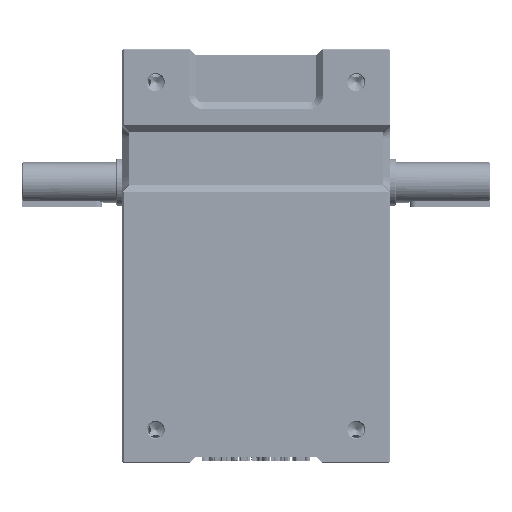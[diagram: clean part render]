
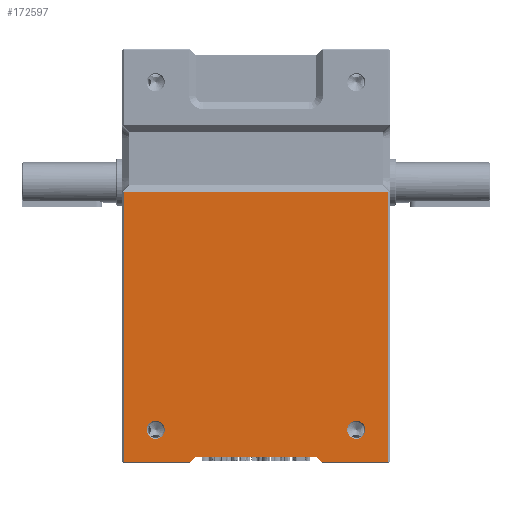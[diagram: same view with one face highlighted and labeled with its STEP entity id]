
A CAD part, front view. The second image highlights one B-rep face of the part: STEP entity #172597.
In plain terms, the highlighted planar face has unit normal (0, -1, 0).
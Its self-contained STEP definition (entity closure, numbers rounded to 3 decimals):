
#916 = VERTEX_POINT ( 'NONE', #53245 ) ;
#3162 = LINE ( 'NONE', #58182, #83329 ) ;
#4793 = CIRCLE ( 'NONE', #22632, 6.75 ) ;
#7851 = CARTESIAN_POINT ( 'NONE',  ( -99., -110., 0. ) ) ;
#10873 = ORIENTED_EDGE ( 'NONE', *, *, #127092, .T. ) ;
#11194 = CARTESIAN_POINT ( 'NONE',  ( -75., -110., -136.75 ) ) ;
#11279 = DIRECTION ( 'NONE',  ( 0., -1., 0. ) ) ;
#11367 = VERTEX_POINT ( 'NONE', #161036 ) ;
#12093 = VERTEX_POINT ( 'NONE', #186749 ) ;
#14230 = CARTESIAN_POINT ( 'NONE',  ( -99., -110., -154. ) ) ;
#14660 = AXIS2_PLACEMENT_3D ( 'NONE', #101179, #41223, #146581 ) ;
#16270 = EDGE_CURVE ( 'NONE', #92589, #146339, #176321, .T. ) ;
#16572 = LINE ( 'NONE', #149292, #47176 ) ;
#21190 = EDGE_CURVE ( 'NONE', #121887, #57894, #37155, .T. ) ;
#22632 = AXIS2_PLACEMENT_3D ( 'NONE', #171561, #81510, #186697 ) ;
#22735 = VERTEX_POINT ( 'NONE', #11194 ) ;
#26059 = PLANE ( 'NONE',  #14660 ) ;
#26813 = CARTESIAN_POINT ( 'NONE',  ( 0., -110., -154. ) ) ;
#32360 = VECTOR ( 'NONE', #191998, 1000. ) ;
#32966 = EDGE_CURVE ( 'NONE', #124194, #139317, #3162, .T. ) ;
#37155 = LINE ( 'NONE', #26813, #32360 ) ;
#38739 = VECTOR ( 'NONE', #52222, 1000. ) ;
#39519 = DIRECTION ( 'NONE',  ( 0., -1., 0. ) ) ;
#39857 = ORIENTED_EDGE ( 'NONE', *, *, #187918, .F. ) ;
#41223 = DIRECTION ( 'NONE',  ( 0., 1., 0. ) ) ;
#42697 = ORIENTED_EDGE ( 'NONE', *, *, #141571, .F. ) ;
#44154 = CARTESIAN_POINT ( 'NONE',  ( 74.998, -110., -123.25 ) ) ;
#46742 = CARTESIAN_POINT ( 'NONE',  ( -74.995, -110., -123.25 ) ) ;
#47176 = VECTOR ( 'NONE', #162458, 1000. ) ;
#48895 = CARTESIAN_POINT ( 'NONE',  ( -75., -110., -130. ) ) ;
#50256 = EDGE_CURVE ( 'NONE', #104775, #115075, #140556, .T. ) ;
#52222 = DIRECTION ( 'NONE',  ( -0.707, 0., -0.707 ) ) ;
#53245 = CARTESIAN_POINT ( 'NONE',  ( -99., -110., 48. ) ) ;
#57894 = VERTEX_POINT ( 'NONE', #14230 ) ;
#58182 = CARTESIAN_POINT ( 'NONE',  ( 49., -110., -154. ) ) ;
#62556 = CARTESIAN_POINT ( 'NONE',  ( -75., -110., -123.25 ) ) ;
#63589 = CARTESIAN_POINT ( 'NONE',  ( 99., -110., -154. ) ) ;
#64042 = DIRECTION ( 'NONE',  ( 1., 0., 0. ) ) ;
#66485 = CARTESIAN_POINT ( 'NONE',  ( 75., -110., -136.75 ) ) ;
#67749 = DIRECTION ( 'NONE',  ( 0., 0., 1. ) ) ;
#69455 = CIRCLE ( 'NONE', #103969, 6.75 ) ;
#72751 = FACE_BOUND ( 'NONE', #194565, .T. ) ;
#73369 = DIRECTION ( 'NONE',  ( -0.707, 0., 0.707 ) ) ;
#76488 = VECTOR ( 'NONE', #67749, 1000. ) ;
#78724 = EDGE_LOOP ( 'NONE', ( #155376, #84054, #128762, #162234, #42697, #158193, #86223, #39857 ) ) ;
#78871 = ORIENTED_EDGE ( 'NONE', *, *, #131225, .F. ) ;
#80768 = CARTESIAN_POINT ( 'NONE',  ( 0., -110., -154. ) ) ;
#81510 = DIRECTION ( 'NONE',  ( 0., -1., 0. ) ) ;
#83329 = VECTOR ( 'NONE', #73369, 1000. ) ;
#84054 = ORIENTED_EDGE ( 'NONE', *, *, #188686, .F. ) ;
#85922 = DIRECTION ( 'NONE',  ( 0., -1., 0. ) ) ;
#86223 = ORIENTED_EDGE ( 'NONE', *, *, #186684, .F. ) ;
#91827 = EDGE_CURVE ( 'NONE', #183646, #22735, #4793, .T. ) ;
#92589 = VERTEX_POINT ( 'NONE', #66485 ) ;
#92928 = CARTESIAN_POINT ( 'NONE',  ( -74.995, -110., -123.25 ) ) ;
#93573 = ORIENTED_EDGE ( 'NONE', *, *, #107201, .F. ) ;
#101179 = CARTESIAN_POINT ( 'NONE',  ( 0., -110., 0. ) ) ;
#101474 = CARTESIAN_POINT ( 'NONE',  ( 75., -110., -130. ) ) ;
#102631 = CARTESIAN_POINT ( 'NONE',  ( 99., -110., 0. ) ) ;
#102980 = ORIENTED_EDGE ( 'NONE', *, *, #174168, .F. ) ;
#103969 = AXIS2_PLACEMENT_3D ( 'NONE', #175966, #85922, #191104 ) ;
#104325 = CIRCLE ( 'NONE', #116495, 6.75 ) ;
#104775 = VERTEX_POINT ( 'NONE', #187102 ) ;
#107201 = EDGE_CURVE ( 'NONE', #146339, #92589, #69455, .T. ) ;
#112763 = FACE_BOUND ( 'NONE', #187415, .T. ) ;
#115075 = VERTEX_POINT ( 'NONE', #63589 ) ;
#116495 = AXIS2_PLACEMENT_3D ( 'NONE', #48895, #154234, #64042 ) ;
#116592 = DIRECTION ( 'NONE',  ( 0., 0., 1. ) ) ;
#121276 = LINE ( 'NONE', #7851, #76488 ) ;
#121887 = VERTEX_POINT ( 'NONE', #177071 ) ;
#124194 = VERTEX_POINT ( 'NONE', #184961 ) ;
#127092 = EDGE_CURVE ( 'NONE', #183646, #134636, #148817, .T. ) ;
#128762 = ORIENTED_EDGE ( 'NONE', *, *, #164342, .F. ) ;
#129744 = CARTESIAN_POINT ( 'NONE',  ( -75., -110., -130. ) ) ;
#131225 = EDGE_CURVE ( 'NONE', #11367, #134636, #104325, .T. ) ;
#132175 = CARTESIAN_POINT ( 'NONE',  ( -75., -110., -123.25 ) ) ;
#133727 = VECTOR ( 'NONE', #155739, 1000. ) ;
#134636 = VERTEX_POINT ( 'NONE', #46742 ) ;
#138434 = LINE ( 'NONE', #80768, #133727 ) ;
#139317 = VERTEX_POINT ( 'NONE', #169682 ) ;
#140556 = LINE ( 'NONE', #102631, #180472 ) ;
#141344 = AXIS2_PLACEMENT_3D ( 'NONE', #101474, #11279, #116592 ) ;
#141571 = EDGE_CURVE ( 'NONE', #115075, #124194, #138434, .T. ) ;
#142505 = CARTESIAN_POINT ( 'NONE',  ( -45., -110., -150. ) ) ;
#144882 = DIRECTION ( 'NONE',  ( 1., 0., 0. ) ) ;
#144953 = LINE ( 'NONE', #192531, #180127 ) ;
#146045 = ORIENTED_EDGE ( 'NONE', *, *, #91827, .F. ) ;
#146339 = VERTEX_POINT ( 'NONE', #44154 ) ;
#146581 = DIRECTION ( 'NONE',  ( 0., 0., 1. ) ) ;
#147850 = DIRECTION ( 'NONE',  ( 1., 0., 0. ) ) ;
#148095 = FACE_OUTER_BOUND ( 'NONE', #78724, .T. ) ;
#148817 = B_SPLINE_CURVE_WITH_KNOTS ( 'NONE', 3,
 ( #62556, #152769, #182974, #92928 ),
 .UNSPECIFIED., .F., .F.,
 ( 4, 4 ),
 ( 0., 0. ),
 .UNSPECIFIED. ) ;
#149292 = CARTESIAN_POINT ( 'NONE',  ( 0., -110., -150. ) ) ;
#152769 = CARTESIAN_POINT ( 'NONE',  ( -74.998, -110., -123.25 ) ) ;
#153413 = ORIENTED_EDGE ( 'NONE', *, *, #16270, .F. ) ;
#154234 = DIRECTION ( 'NONE',  ( 0., -1., 0. ) ) ;
#155376 = ORIENTED_EDGE ( 'NONE', *, *, #21190, .F. ) ;
#155739 = DIRECTION ( 'NONE',  ( -1., 0., 0. ) ) ;
#157094 = AXIS2_PLACEMENT_3D ( 'NONE', #129744, #39519, #144882 ) ;
#158193 = ORIENTED_EDGE ( 'NONE', *, *, #50256, .F. ) ;
#158855 = LINE ( 'NONE', #142505, #38739 ) ;
#161036 = CARTESIAN_POINT ( 'NONE',  ( -68.25, -110., -130. ) ) ;
#162234 = ORIENTED_EDGE ( 'NONE', *, *, #32966, .F. ) ;
#162458 = DIRECTION ( 'NONE',  ( -1., 0., 0. ) ) ;
#164342 = EDGE_CURVE ( 'NONE', #139317, #12093, #16572, .T. ) ;
#169682 = CARTESIAN_POINT ( 'NONE',  ( 45., -110., -150. ) ) ;
#171561 = CARTESIAN_POINT ( 'NONE',  ( -75., -110., -130. ) ) ;
#172597 = ADVANCED_FACE ( 'NONE', ( #112763, #72751, #148095 ), #26059, .F. ) ;
#174168 = EDGE_CURVE ( 'NONE', #22735, #11367, #178830, .T. ) ;
#175966 = CARTESIAN_POINT ( 'NONE',  ( 75., -110., -130. ) ) ;
#176321 = CIRCLE ( 'NONE', #141344, 6.75 ) ;
#177071 = CARTESIAN_POINT ( 'NONE',  ( -49., -110., -154. ) ) ;
#178830 = CIRCLE ( 'NONE', #157094, 6.75 ) ;
#180127 = VECTOR ( 'NONE', #147850, 1000. ) ;
#180472 = VECTOR ( 'NONE', #192714, 1000. ) ;
#182974 = CARTESIAN_POINT ( 'NONE',  ( -74.997, -110., -123.25 ) ) ;
#183646 = VERTEX_POINT ( 'NONE', #132175 ) ;
#184961 = CARTESIAN_POINT ( 'NONE',  ( 49., -110., -154. ) ) ;
#186684 = EDGE_CURVE ( 'NONE', #916, #104775, #144953, .T. ) ;
#186697 = DIRECTION ( 'NONE',  ( 0., 0., 1. ) ) ;
#186749 = CARTESIAN_POINT ( 'NONE',  ( -45., -110., -150. ) ) ;
#187102 = CARTESIAN_POINT ( 'NONE',  ( 99., -110., 48. ) ) ;
#187415 = EDGE_LOOP ( 'NONE', ( #146045, #10873, #78871, #102980 ) ) ;
#187918 = EDGE_CURVE ( 'NONE', #57894, #916, #121276, .T. ) ;
#188686 = EDGE_CURVE ( 'NONE', #12093, #121887, #158855, .T. ) ;
#191104 = DIRECTION ( 'NONE',  ( 0., 0., 1. ) ) ;
#191998 = DIRECTION ( 'NONE',  ( -1., 0., 0. ) ) ;
#192531 = CARTESIAN_POINT ( 'NONE',  ( 0., -110., 48. ) ) ;
#192714 = DIRECTION ( 'NONE',  ( 0., 0., -1. ) ) ;
#194565 = EDGE_LOOP ( 'NONE', ( #93573, #153413 ) ) ;
